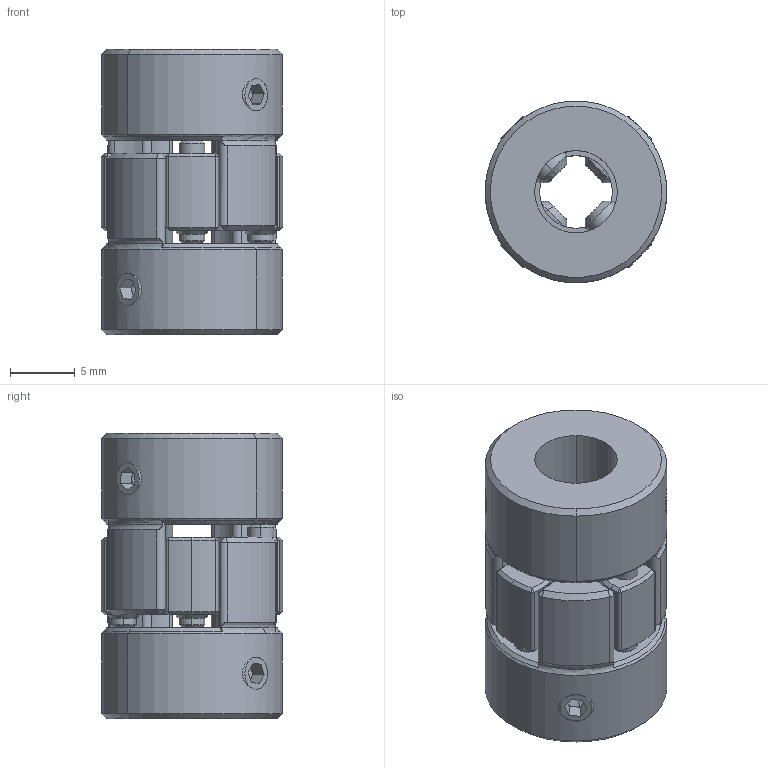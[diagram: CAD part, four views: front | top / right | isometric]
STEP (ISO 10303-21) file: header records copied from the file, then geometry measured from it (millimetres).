
FILE_DESCRIPTION (( 'STEP AP203' ), '1' );
FILE_NAME ('LF-D-D14L22-6.35-6.35.STEP', '2021-10-26T05:41:53', ( '' ), ( '' ), 'SwSTEP 2.0', 'SolidWorks 2018', '' );
FILE_SCHEMA (( 'CONFIG_CONTROL_DESIGN' ));
Length unit declared in the file: millimetre
Products named in the file (1): LF-D-D14L22-6.35-6.35
Bounding box: 14 x 14 x 22 mm (x, y, z)
Volume: 2545.9 mm3; surface area: 2179.4 mm2
Topology: 1 solids, 1 shells, 353 faces, 883 edges, 508 vertices
Faces by surface type: cone 164, cylinder 115, plane 66, torus 8
Entity records: 10817 total; most frequent: CARTESIAN_POINT 2234, DIRECTION 1931, ORIENTED_EDGE 1718, EDGE_CURVE 859, AXIS2_PLACEMENT_3D 776, VERTEX_POINT 508, CIRCLE 422, EDGE_LOOP 383
